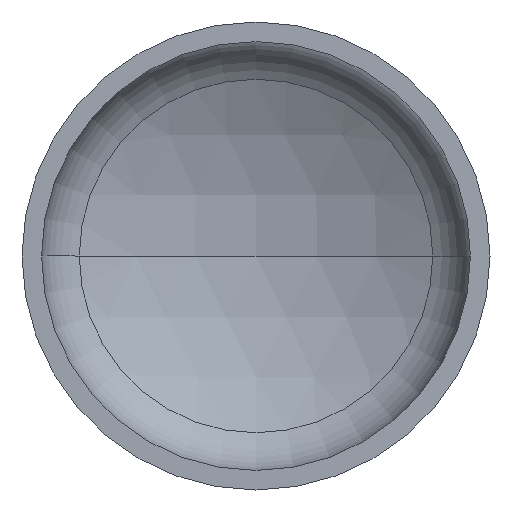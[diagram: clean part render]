
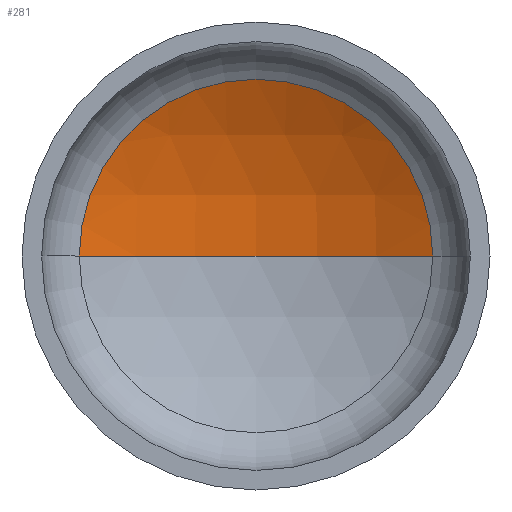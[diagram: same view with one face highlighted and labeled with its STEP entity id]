
A CAD part, front view. The second image highlights one B-rep face of the part: STEP entity #281.
In plain terms, the highlighted spherical face has radius 325 mm.
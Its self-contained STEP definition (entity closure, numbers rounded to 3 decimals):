
#2 = AXIS2_PLACEMENT_3D ( 'NONE', #345, #197, #366 ) ;
#4 = AXIS2_PLACEMENT_3D ( 'NONE', #361, #397, #95 ) ;
#26 = EDGE_LOOP ( 'NONE', ( #147, #73, #114 ) ) ;
#28 = AXIS2_PLACEMENT_3D ( 'NONE', #233, #183, #222 ) ;
#59 = VERTEX_POINT ( 'NONE', #358 ) ;
#73 = ORIENTED_EDGE ( 'NONE', *, *, #375, .T. ) ;
#95 = DIRECTION ( 'NONE',  ( 1., 0., 0. ) ) ;
#105 = CIRCLE ( 'NONE', #4, 325. ) ;
#114 = ORIENTED_EDGE ( 'NONE', *, *, #376, .T. ) ;
#142 = VERTEX_POINT ( 'NONE', #278 ) ;
#147 = ORIENTED_EDGE ( 'NONE', *, *, #359, .F. ) ;
#164 = VERTEX_POINT ( 'NONE', #188 ) ;
#183 = DIRECTION ( 'NONE',  ( 0., 0., -1. ) ) ;
#188 = CARTESIAN_POINT ( 'NONE',  ( -153.479, 109.651, 0. ) ) ;
#197 = DIRECTION ( 'NONE',  ( 0., 0., -1. ) ) ;
#199 = CIRCLE ( 'NONE', #253, 153.479 ) ;
#203 = CIRCLE ( 'NONE', #2, 325. ) ;
#222 = DIRECTION ( 'NONE',  ( -1., 0., 0. ) ) ;
#233 = CARTESIAN_POINT ( 'NONE',  ( 0., -176.826, 0. ) ) ;
#253 = AXIS2_PLACEMENT_3D ( 'NONE', #317, #406, #262 ) ;
#262 = DIRECTION ( 'NONE',  ( 1., 0., 0. ) ) ;
#278 = CARTESIAN_POINT ( 'NONE',  ( 153.479, 109.651, 0. ) ) ;
#281 = ADVANCED_FACE ( 'NONE', ( #293 ), #302, .F. ) ;
#293 = FACE_OUTER_BOUND ( 'NONE', #26, .T. ) ;
#302 = SPHERICAL_SURFACE ( 'NONE', #28, 325. ) ;
#317 = CARTESIAN_POINT ( 'NONE',  ( 0., 109.651, 0. ) ) ;
#345 = CARTESIAN_POINT ( 'NONE',  ( 0., -176.826, 0. ) ) ;
#358 = CARTESIAN_POINT ( 'NONE',  ( 0., 148.174, 0. ) ) ;
#359 = EDGE_CURVE ( 'NONE', #59, #164, #105, .T. ) ;
#361 = CARTESIAN_POINT ( 'NONE',  ( 0., -176.826, 0. ) ) ;
#366 = DIRECTION ( 'NONE',  ( -1., 0., 0. ) ) ;
#375 = EDGE_CURVE ( 'NONE', #59, #142, #203, .T. ) ;
#376 = EDGE_CURVE ( 'NONE', #142, #164, #199, .T. ) ;
#397 = DIRECTION ( 'NONE',  ( 0., 0., 1. ) ) ;
#406 = DIRECTION ( 'NONE',  ( 0., -1., 0. ) ) ;
